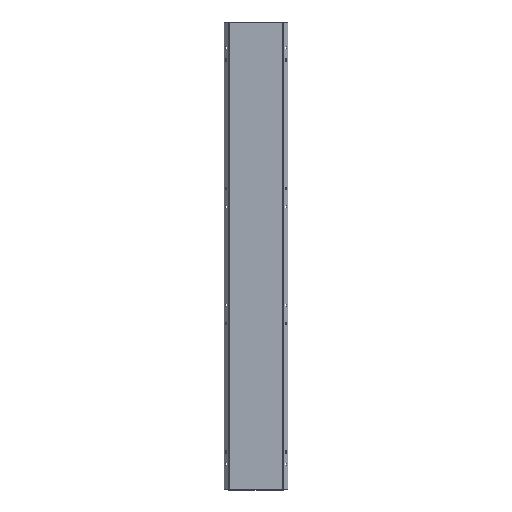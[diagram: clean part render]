
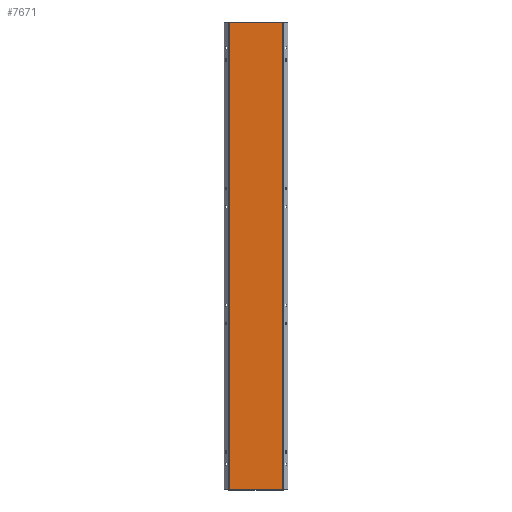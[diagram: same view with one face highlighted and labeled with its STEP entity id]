
A CAD part, top view. The second image highlights one B-rep face of the part: STEP entity #7671.
In plain terms, the highlighted planar face has unit normal (0, 0, 1).
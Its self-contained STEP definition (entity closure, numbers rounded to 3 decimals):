
#105 = LINE ( 'NONE', #6221, #744 ) ;
#141 = DIRECTION ( 'NONE',  ( 0., 0., -1. ) ) ;
#537 = ORIENTED_EDGE ( 'NONE', *, *, #7463, .T. ) ;
#604 = VERTEX_POINT ( 'NONE', #5858 ) ;
#744 = VECTOR ( 'NONE', #4912, 1000. ) ;
#1158 = CARTESIAN_POINT ( 'NONE',  ( -111.5, 970.5, 0. ) ) ;
#1165 = AXIS2_PLACEMENT_3D ( 'NONE', #6218, #141, #3178 ) ;
#1402 = ORIENTED_EDGE ( 'NONE', *, *, #5496, .T. ) ;
#1487 = CARTESIAN_POINT ( 'NONE',  ( -111.5, 970.5, 0. ) ) ;
#3081 = DIRECTION ( 'NONE',  ( 0., 1., 0. ) ) ;
#3116 = VERTEX_POINT ( 'NONE', #7018 ) ;
#3178 = DIRECTION ( 'NONE',  ( -1., 0., 0. ) ) ;
#3710 = VERTEX_POINT ( 'NONE', #1487 ) ;
#3784 = PLANE ( 'NONE',  #1165 ) ;
#4043 = DIRECTION ( 'NONE',  ( 0., -1., 0. ) ) ;
#4086 = LINE ( 'NONE', #5920, #6517 ) ;
#4168 = EDGE_CURVE ( 'NONE', #4996, #3710, #4195, .T. ) ;
#4195 = LINE ( 'NONE', #1158, #5224 ) ;
#4254 = ORIENTED_EDGE ( 'NONE', *, *, #4168, .T. ) ;
#4258 = LINE ( 'NONE', #6686, #6257 ) ;
#4802 = CARTESIAN_POINT ( 'NONE',  ( 111.5, 970.5, 0. ) ) ;
#4912 = DIRECTION ( 'NONE',  ( 1., 0., 0. ) ) ;
#4996 = VERTEX_POINT ( 'NONE', #4802 ) ;
#5224 = VECTOR ( 'NONE', #7712, 1000. ) ;
#5496 = EDGE_CURVE ( 'NONE', #3116, #604, #105, .T. ) ;
#5712 = EDGE_LOOP ( 'NONE', ( #7890, #4254, #537, #1402 ) ) ;
#5858 = CARTESIAN_POINT ( 'NONE',  ( 111.5, -970.5, 0. ) ) ;
#5920 = CARTESIAN_POINT ( 'NONE',  ( -111.5, -970.5, 0. ) ) ;
#6218 = CARTESIAN_POINT ( 'NONE',  ( 0., 0., 0. ) ) ;
#6221 = CARTESIAN_POINT ( 'NONE',  ( -111.5, -970.5, 0. ) ) ;
#6257 = VECTOR ( 'NONE', #3081, 1000. ) ;
#6517 = VECTOR ( 'NONE', #4043, 1000. ) ;
#6686 = CARTESIAN_POINT ( 'NONE',  ( 111.5, -970.5, 0. ) ) ;
#7018 = CARTESIAN_POINT ( 'NONE',  ( -111.5, -970.5, 0. ) ) ;
#7198 = EDGE_CURVE ( 'NONE', #604, #4996, #4258, .T. ) ;
#7274 = FACE_OUTER_BOUND ( 'NONE', #5712, .T. ) ;
#7463 = EDGE_CURVE ( 'NONE', #3710, #3116, #4086, .T. ) ;
#7671 = ADVANCED_FACE ( 'NONE', ( #7274 ), #3784, .F. ) ;
#7712 = DIRECTION ( 'NONE',  ( -1., 0., 0. ) ) ;
#7890 = ORIENTED_EDGE ( 'NONE', *, *, #7198, .T. ) ;
